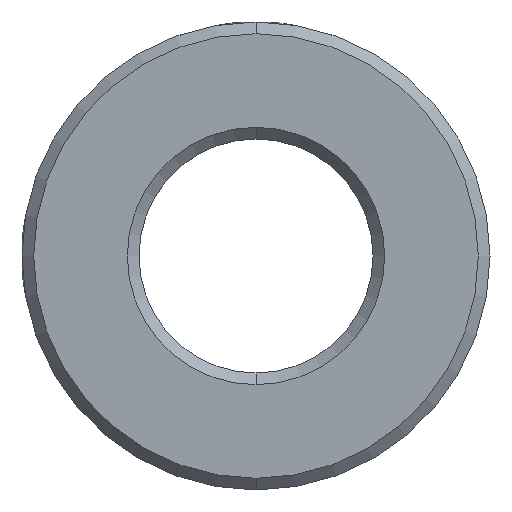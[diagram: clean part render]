
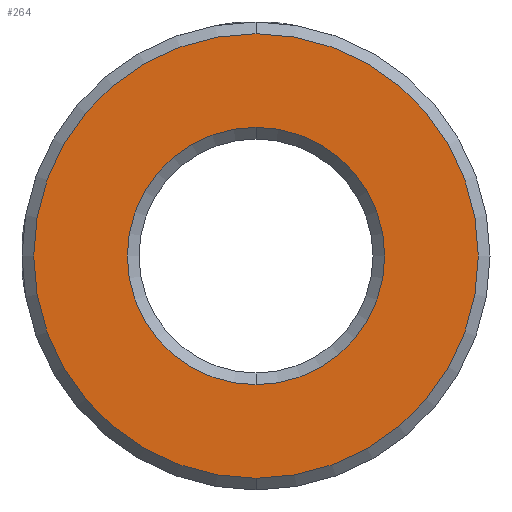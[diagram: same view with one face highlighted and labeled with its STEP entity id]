
A CAD part, front view. The second image highlights one B-rep face of the part: STEP entity #264.
In plain terms, the highlighted planar face has unit normal (0, -1, 0).
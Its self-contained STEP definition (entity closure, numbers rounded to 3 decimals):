
#167 = AXIS2_PLACEMENT_3D ( 'NONE', #2581, #1245, #172 ) ;
#172 = DIRECTION ( 'NONE',  ( 0., 0., 1. ) ) ;
#203 = EDGE_LOOP ( 'NONE', ( #3250, #2375 ) ) ;
#264 = ADVANCED_FACE ( 'NONE', ( #2589, #2862 ), #2050, .F. ) ;
#268 = AXIS2_PLACEMENT_3D ( 'NONE', #1068, #1622, #1292 ) ;
#285 = CARTESIAN_POINT ( 'NONE',  ( -10.188, -0.277, 0.046 ) ) ;
#447 = EDGE_CURVE ( 'NONE', #1138, #1595, #2325, .T. ) ;
#488 = AXIS2_PLACEMENT_3D ( 'NONE', #285, #1435, #1388 ) ;
#633 = CIRCLE ( 'NONE', #167, 5.5 ) ;
#750 = CIRCLE ( 'NONE', #1470, 9.5 ) ;
#860 = VERTEX_POINT ( 'NONE', #3417 ) ;
#899 = EDGE_CURVE ( 'NONE', #1595, #1138, #633, .T. ) ;
#1068 = CARTESIAN_POINT ( 'NONE',  ( -10.188, -0.277, 0.046 ) ) ;
#1138 = VERTEX_POINT ( 'NONE', #1377 ) ;
#1201 = DIRECTION ( 'NONE',  ( 0., 1., 0. ) ) ;
#1245 = DIRECTION ( 'NONE',  ( 0., 1., 0. ) ) ;
#1292 = DIRECTION ( 'NONE',  ( 0., 0., 1. ) ) ;
#1350 = EDGE_CURVE ( 'NONE', #3015, #860, #2334, .T. ) ;
#1377 = CARTESIAN_POINT ( 'NONE',  ( -10.188, -0.277, 5.546 ) ) ;
#1388 = DIRECTION ( 'NONE',  ( 0., 0., 1. ) ) ;
#1435 = DIRECTION ( 'NONE',  ( 0., 1., 0. ) ) ;
#1470 = AXIS2_PLACEMENT_3D ( 'NONE', #1924, #3054, #3313 ) ;
#1595 = VERTEX_POINT ( 'NONE', #2470 ) ;
#1622 = DIRECTION ( 'NONE',  ( 0., -1., 0. ) ) ;
#1924 = CARTESIAN_POINT ( 'NONE',  ( -10.188, -0.277, 0.046 ) ) ;
#1930 = CARTESIAN_POINT ( 'NONE',  ( -10.188, -0.277, -9.454 ) ) ;
#1979 = EDGE_CURVE ( 'NONE', #860, #3015, #750, .T. ) ;
#2050 = PLANE ( 'NONE',  #2450 ) ;
#2325 = CIRCLE ( 'NONE', #488, 5.5 ) ;
#2334 = CIRCLE ( 'NONE', #268, 9.5 ) ;
#2375 = ORIENTED_EDGE ( 'NONE', *, *, #447, .T. ) ;
#2450 = AXIS2_PLACEMENT_3D ( 'NONE', #3182, #1201, #2576 ) ;
#2470 = CARTESIAN_POINT ( 'NONE',  ( -10.188, -0.277, -5.454 ) ) ;
#2576 = DIRECTION ( 'NONE',  ( 0., 0., 1. ) ) ;
#2581 = CARTESIAN_POINT ( 'NONE',  ( -10.188, -0.277, 0.046 ) ) ;
#2589 = FACE_OUTER_BOUND ( 'NONE', #3540, .T. ) ;
#2840 = ORIENTED_EDGE ( 'NONE', *, *, #1350, .T. ) ;
#2862 = FACE_BOUND ( 'NONE', #203, .T. ) ;
#3015 = VERTEX_POINT ( 'NONE', #1930 ) ;
#3054 = DIRECTION ( 'NONE',  ( 0., -1., 0. ) ) ;
#3182 = CARTESIAN_POINT ( 'NONE',  ( -10.188, -0.277, 0.046 ) ) ;
#3250 = ORIENTED_EDGE ( 'NONE', *, *, #899, .T. ) ;
#3313 = DIRECTION ( 'NONE',  ( 0., 0., 1. ) ) ;
#3417 = CARTESIAN_POINT ( 'NONE',  ( -10.188, -0.277, 9.546 ) ) ;
#3540 = EDGE_LOOP ( 'NONE', ( #3547, #2840 ) ) ;
#3547 = ORIENTED_EDGE ( 'NONE', *, *, #1979, .T. ) ;
